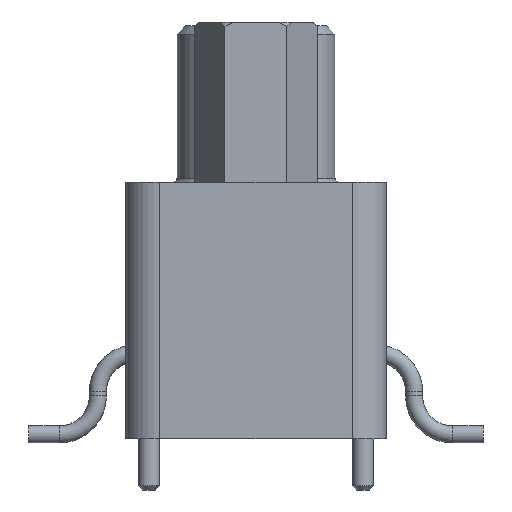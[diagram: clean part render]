
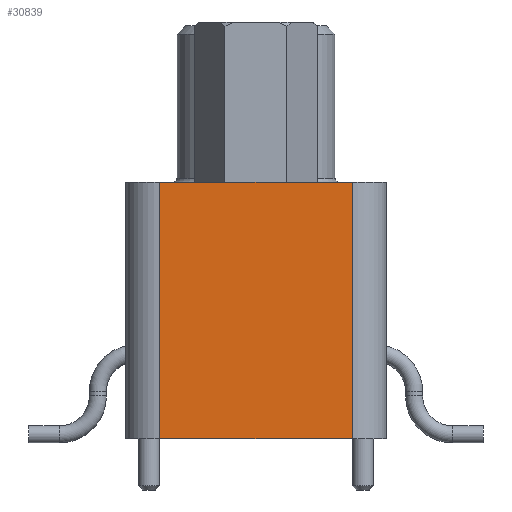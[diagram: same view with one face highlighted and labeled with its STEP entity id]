
A CAD part, left-side view. The second image highlights one B-rep face of the part: STEP entity #30839.
In plain terms, the highlighted planar face has unit normal (-1, 0, 0).
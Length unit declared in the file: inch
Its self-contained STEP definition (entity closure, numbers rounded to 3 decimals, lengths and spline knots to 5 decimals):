
#1211 = FACE_OUTER_BOUND ( 'NONE', #17647, .T. ) ;
#1575 = DIRECTION ( 'NONE',  ( 0., 1., 0. ) ) ;
#4132 = VERTEX_POINT ( 'NONE', #18854 ) ;
#4171 = LINE ( 'NONE', #26281, #32979 ) ;
#4550 = CARTESIAN_POINT ( 'NONE',  ( -0.3875, 0.1125, 0.042 ) ) ;
#5569 = EDGE_CURVE ( 'NONE', #12049, #43220, #40377, .T. ) ;
#7855 = CARTESIAN_POINT ( 'NONE',  ( -0.3875, -0.1125, 0.042 ) ) ;
#10315 = ORIENTED_EDGE ( 'NONE', *, *, #37743, .T. ) ;
#10829 = EDGE_CURVE ( 'NONE', #4132, #12049, #18333, .T. ) ;
#11090 = VECTOR ( 'NONE', #28301, 39.37008 ) ;
#12049 = VERTEX_POINT ( 'NONE', #36929 ) ;
#17647 = EDGE_LOOP ( 'NONE', ( #42280, #40351, #27952, #10315 ) ) ;
#17740 = AXIS2_PLACEMENT_3D ( 'NONE', #33736, #20078, #20525 ) ;
#18333 = LINE ( 'NONE', #7855, #11090 ) ;
#18421 = VECTOR ( 'NONE', #1575, 39.37008 ) ;
#18854 = CARTESIAN_POINT ( 'NONE',  ( -0.3875, -0.1125, 0.042 ) ) ;
#19847 = PLANE ( 'NONE',  #17740 ) ;
#20078 = DIRECTION ( 'NONE',  ( -1., 0., 0. ) ) ;
#20525 = DIRECTION ( 'NONE',  ( 0., 0., 1. ) ) ;
#22298 = DIRECTION ( 'NONE',  ( 0., 0., -1. ) ) ;
#26281 = CARTESIAN_POINT ( 'NONE',  ( -0.3875, -0.1125, 0.042 ) ) ;
#27952 = ORIENTED_EDGE ( 'NONE', *, *, #10829, .F. ) ;
#28301 = DIRECTION ( 'NONE',  ( 0., 0., -1. ) ) ;
#30564 = VECTOR ( 'NONE', #22298, 39.37008 ) ;
#30839 = ADVANCED_FACE ( 'NONE', ( #1211 ), #19847, .T. ) ;
#32754 = CARTESIAN_POINT ( 'NONE',  ( -0.3875, -0.1125, -0.258 ) ) ;
#32979 = VECTOR ( 'NONE', #40406, 39.37008 ) ;
#33380 = EDGE_CURVE ( 'NONE', #36747, #43220, #39217, .T. ) ;
#33736 = CARTESIAN_POINT ( 'NONE',  ( -0.3875, -0.1125, 0.042 ) ) ;
#34344 = CARTESIAN_POINT ( 'NONE',  ( -0.3875, 0.1125, 0.042 ) ) ;
#36732 = CARTESIAN_POINT ( 'NONE',  ( -0.3875, 0.1125, -0.258 ) ) ;
#36747 = VERTEX_POINT ( 'NONE', #34344 ) ;
#36929 = CARTESIAN_POINT ( 'NONE',  ( -0.3875, -0.1125, -0.258 ) ) ;
#37743 = EDGE_CURVE ( 'NONE', #4132, #36747, #4171, .T. ) ;
#39217 = LINE ( 'NONE', #4550, #30564 ) ;
#40351 = ORIENTED_EDGE ( 'NONE', *, *, #5569, .F. ) ;
#40377 = LINE ( 'NONE', #32754, #18421 ) ;
#40406 = DIRECTION ( 'NONE',  ( 0., 1., 0. ) ) ;
#42280 = ORIENTED_EDGE ( 'NONE', *, *, #33380, .T. ) ;
#43220 = VERTEX_POINT ( 'NONE', #36732 ) ;
